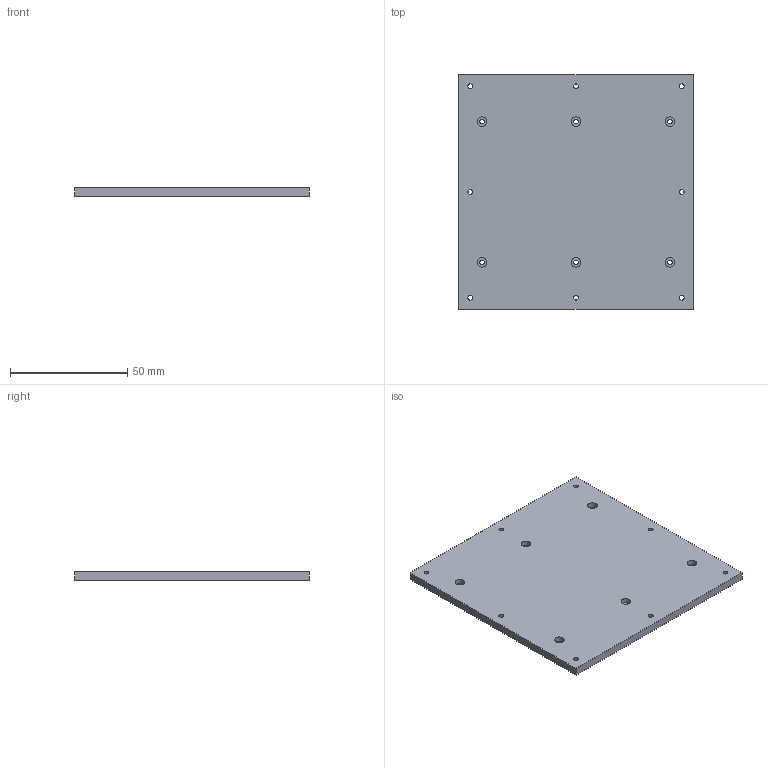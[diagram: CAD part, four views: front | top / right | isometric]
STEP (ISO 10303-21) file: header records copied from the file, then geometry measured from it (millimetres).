
FILE_DESCRIPTION(/* description */ ('','CAx-IF Rec.Pracs.---Representation and Presentation of Product Manufacturing Information (PMI)---4.0---2014-10-13'),/* implementation_level */ '2;1');
FILE_NAME(/* name */ 'a1_mini_platform_L1_center_v3.step',/* time_stamp */ '2025-02-10T15:08:48+08:00',/* author */ (''),/* organization */ (''),/* preprocessor_version */ 'ST-DEVELOPER v20',/* originating_system */ 'Autodesk Translation Framework v13.20.0.188',/* authorisation */ '');
FILE_SCHEMA (('AP242_MANAGED_MODEL_BASED_3D_ENGINEERING_MIM_LF { 1 0 10303 442 1 1 4 }'));
Length unit declared in the file: millimetre
Products named in the file (1): a1_mini_platform_L1_center
Bounding box: 100 x 100 x 3.5 mm (x, y, z)
Volume: 34708.8 mm3; surface area: 21708.8 mm2
Topology: 1 solids, 1 shells, 32 faces, 72 edges, 48 vertices
Faces by surface type: cylinder 20, plane 12
Full cylindrical faces by diameter (mm): 2 x6, 2.05 x8, 4.1 x6
Entity records: 1005 total; most frequent: DIRECTION 178, CARTESIAN_POINT 153, ORIENTED_EDGE 144, AXIS2_PLACEMENT_3D 73, EDGE_CURVE 72, EDGE_LOOP 66, VERTEX_POINT 48, CIRCLE 40
